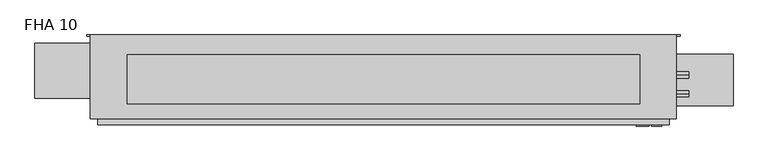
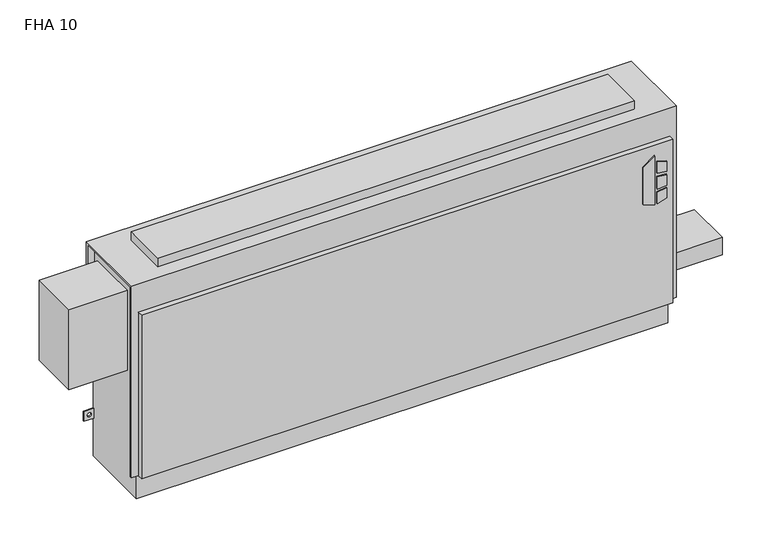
"""IFC4 building model written with IfcOpenShell, lengths in millimetres: proxy geometry, Vertical_Fan_Coil_Unit_-_FHA_-_IEC_-_2-Pipe_TS-FR_RH_2022 : FHA 10."""

from ifc_helpers import new_model, si_unit, point, frame, frame_2d, origin, place, context, project, spatial, polyline, circle_curve, trimmed, segment, composite_curve, outline, extrude, source, transform, mapped, element, save
from ifc_brep_helpers import plane_surface, revolved_surface, advanced_brep


def fha_10_318577b4(model_context):
    return source(origin(), model_context, "Body", "SolidModel", [
        extrude(outline(polyline([(391.6086829, 804.9368862), (381.6606126, 837.1102728), (523.831537, 837.1102728), (500.8095309, 804.9368862), (391.6086829, 804.9368862)])), frame((0.0, 9.525, 0.0), z_axis=(0.0, 1.0, 0.0), x_axis=(0.0, 0.0, 1.0)), (0.0, 0.0, 1.0), 3.175),
        extrude(outline(polyline([(470.6079683, 843.8686058), (467.4055757, 869.95), (496.6344168, 869.95), (504.6988318, 843.8686058), (470.6079683, 843.8686058)])), frame((0.0, 9.525, 0.0), z_axis=(0.0, 1.0, 0.0), x_axis=(0.0, 0.0, 1.0)), (0.0, 0.0, 1.0), 3.175),
        extrude(outline(polyline([(418.7444414, 869.95), (415.0789404, 843.8686058), (381.6606126, 843.8686058), (390.2948498, 869.95), (418.7444414, 869.95)])), frame((0.0, 9.525, 0.0), z_axis=(0.0, 1.0, 0.0), x_axis=(0.0, 0.0, 1.0)), (0.0, 0.0, 1.0), 3.175),
        extrude(outline(polyline([(458.0596028, 869.95), (460.3414292, 843.8686058), (424.4038806, 843.8686058), (427.1451456, 869.95), (458.0596028, 869.95)])), frame((0.0, 9.525, 0.0), z_axis=(0.0, 1.0, 0.0), x_axis=(0.0, 0.0, 1.0)), (0.0, 0.0, 1.0), 3.175),
        extrude(outline(composite_curve([segment(trimmed(circle_curve(frame_2d((952.5, 128.5875)), 9.525), [point((942.975, 128.5875))], [point((962.025, 128.5875))], False, "CARTESIAN"), True, "CONTINUOUS"), segment(trimmed(circle_curve(frame_2d((952.5, 128.5875)), 9.525), [point((962.025, 128.5875))], [point((942.975, 128.5875))], False, "CARTESIAN"), True, "CONTINUOUS")], self_intersect=False)), frame((0.0, 0.0, 101.6), z_axis=(0.0, 0.0, 1.0), x_axis=(1.0, 0.0, 0.0)), (0.0, 0.0, 1.0), 25.4),
        extrude(outline(polyline([(1054.1, 195.2625), (1054.1, 61.9125), (889.0, 61.9125), (889.0, 195.2625), (1054.1, 195.2625)])), frame((0.0, 0.0, 127.0), z_axis=(0.0, 0.0, 1.0), x_axis=(1.0, 0.0, 0.0)), (0.0, 0.0, 1.0), 50.8),
        extrude(outline(polyline([(812.8, 193.675), (812.8, 66.675), (-508.0, 66.675), (-508.0, 193.675), (812.8, 193.675)])), frame((0.0, 0.0, 635.0), z_axis=(0.0, 0.0, 1.0), x_axis=(1.0, 0.0, 0.0)), (0.0, 0.0, 1.0), 25.4),
        extrude(outline(composite_curve([segment(trimmed(circle_curve(frame_2d((93.1926, 488.0102)), 7.9375), [point((93.1926, 480.0727))], [point((93.1926, 495.9477))], False, "CARTESIAN"), True, "CONTINUOUS"), segment(trimmed(circle_curve(frame_2d((93.1926, 488.0102)), 7.9375), [point((93.1926, 495.9477))], [point((93.1926, 480.0727))], False, "CARTESIAN"), True, "CONTINUOUS")], self_intersect=False)), frame((889.0, 0.0, 0.0), z_axis=(1.0, 0.0, 0.0), x_axis=(0.0, 1.0, 0.0)), (0.0, 0.0, 1.0), 50.8),
        extrude(outline(composite_curve([segment(trimmed(circle_curve(frame_2d((141.3002, 461.3402)), 7.9375), [point((141.3002, 453.4027))], [point((141.3002, 469.2777))], False, "CARTESIAN"), True, "CONTINUOUS"), segment(trimmed(circle_curve(frame_2d((141.3002, 461.3402)), 7.9375), [point((141.3002, 469.2777))], [point((141.3002, 453.4027))], False, "CARTESIAN"), True, "CONTINUOUS")], self_intersect=False)), frame((889.0, 0.0, 0.0), z_axis=(1.0, 0.0, 0.0), x_axis=(0.0, 1.0, 0.0)), (0.0, 0.0, 1.0), 50.8),
        extrude(outline(polyline([(-746.125, 223.266), (-584.2, 223.266), (-584.2, 81.534), (-746.125, 81.534), (-746.125, 223.266)])), frame((0.0, 0.0, 349.25), z_axis=(0.0, 0.0, 1.0), x_axis=(1.0, 0.0, 0.0)), (0.0, 0.0, 1.0), 234.95),
        advanced_brep(
        [(908.05, 244.475, 635.0), (-603.25, 244.475, 635.0), (-603.25, 28.575, 635.0), (908.05, 28.575, 635.0), (-584.2, 244.475, 0.0), (889.0, 244.475, 0.0), (889.0, 38.1, 0.0), (-584.2, 38.1, 0.0), (908.05, 244.475, 558.8), (889.0, 244.475, 558.8), (889.0, 244.475, 414.3375), (917.575, 244.475, 414.3375), (917.575, 244.475, 385.7625), (889.0, 244.475, 385.7625), (889.0, 244.475, 287.3375), (917.575, 244.475, 287.3375), (917.575, 244.475, 258.7625), (889.0, 244.475, 258.7625), (889.0, 244.475, 141.2875), (917.575, 244.475, 141.2875), (917.575, 244.475, 112.7125), (889.0, 244.475, 112.7125), (-584.2, 244.475, 112.7125), (-612.775, 244.475, 112.7125), (-612.775, 244.475, 141.2875), (-584.2, 244.475, 141.2875), (-584.2, 244.475, 258.7625), (-612.775, 244.475, 258.7625), (-612.775, 244.475, 287.3375), (-584.2, 244.475, 287.3375), (-584.2, 244.475, 385.7625), (-612.775, 244.475, 385.7625), (-612.775, 244.475, 414.3375), (-584.2, 244.475, 414.3375), (-584.2, 244.475, 558.8), (-603.25, 244.475, 558.8), (907.2626, 244.475, 127.0), (896.1374, 244.475, 127.0), (-591.3374, 244.475, 127.0), (-602.4626, 244.475, 127.0), (907.2626, 244.475, 273.05), (896.1374, 244.475, 273.05), (-591.3374, 244.475, 273.05), (-602.4626, 244.475, 273.05), (907.2626, 244.475, 400.05), (896.1374, 244.475, 400.05), (-591.3374, 244.475, 400.05), (-602.4626, 244.475, 400.05), (-603.25, 238.125, 558.8), (-603.25, 238.125, 628.65), (-603.25, 34.925, 628.65), (-603.25, 34.925, 73.025), (-603.25, 28.575, 73.025), (889.0, 12.7, 552.45), (-584.2, 12.7, 552.45), (-584.2, 12.7, 73.025), (889.0, 12.7, 73.025), (908.05, 28.575, 73.025), (908.05, 34.925, 73.025), (908.05, 34.925, 628.65), (908.05, 238.125, 628.65), (908.05, 238.125, 558.8), (-584.2, 28.575, 73.025), (-584.2, 28.575, 552.45), (889.0, 28.575, 552.45), (889.0, 28.575, 73.025), (-584.2, 34.925, 73.025), (-584.2, 38.1, 73.025), (889.0, 38.1, 73.025), (889.0, 34.925, 73.025), (889.0, 241.3, 112.7125), (889.0, 241.3, 141.2875), (889.0, 241.3, 258.7625), (889.0, 241.3, 287.3375), (889.0, 241.3, 385.7625), (889.0, 241.3, 414.3375), (889.0, 238.125, 558.8), (889.0, 238.125, 628.65), (889.0, 34.925, 628.65), (-584.2, 34.925, 628.65), (-584.2, 238.125, 628.65), (-584.2, 238.125, 558.8), (-584.2, 241.3, 414.3375), (-584.2, 241.3, 385.7625), (-584.2, 241.3, 287.3375), (-584.2, 241.3, 258.7625), (-584.2, 241.3, 141.2875), (-584.2, 241.3, 112.7125), (917.575, 241.3, 112.7125), (917.575, 241.3, 141.2875), (896.1374, 241.3, 127.0), (907.2626, 241.3, 127.0), (917.575, 241.3, 258.7625), (917.575, 241.3, 287.3375), (896.1374, 241.3, 273.05), (907.2626, 241.3, 273.05), (917.575, 241.3, 385.7625), (917.575, 241.3, 414.3375), (896.1374, 241.3, 400.05), (907.2626, 241.3, 400.05), (-612.775, 241.3, 141.2875), (-612.775, 241.3, 112.7125), (-602.4626, 241.3, 127.0), (-591.3374, 241.3, 127.0), (-612.775, 241.3, 287.3375), (-612.775, 241.3, 258.7625), (-602.4626, 241.3, 273.05), (-591.3374, 241.3, 273.05), (-612.775, 241.3, 414.3375), (-612.775, 241.3, 385.7625), (-602.4626, 241.3, 400.05), (-591.3374, 241.3, 400.05)],
        [
            (0, 1),
            (1, 2),
            (2, 3),
            (3, 0),
            (4, 5),
            (5, 6),
            (6, 7),
            (7, 4),
            (0, 8),
            (8, 9),
            (9, 10),
            (10, 11),
            (11, 12),
            (12, 13),
            (13, 14),
            (14, 15),
            (15, 16),
            (16, 17),
            (17, 18),
            (18, 19),
            (19, 20),
            (20, 21),
            (21, 5),
            (4, 22),
            (22, 23),
            (23, 24),
            (24, 25),
            (25, 26),
            (26, 27),
            (27, 28),
            (28, 29),
            (29, 30),
            (30, 31),
            (31, 32),
            (32, 33),
            (33, 34),
            (34, 35),
            (35, 1),
            (36, 37, circle_curve(frame((901.7, 244.475, 127.0), z_axis=(0.0, -1.0, 0.0), x_axis=(-1.0, 0.0, 0.0)), 5.5626)),
            (37, 36, circle_curve(frame((901.7, 244.475, 127.0), z_axis=(0.0, -1.0, 0.0), x_axis=(-1.0, 0.0, 0.0)), 5.5626)),
            (38, 39, circle_curve(frame((-596.9, 244.475, 127.0), z_axis=(0.0, -1.0, 0.0), x_axis=(-1.0, 0.0, 0.0)), 5.5626)),
            (39, 38, circle_curve(frame((-596.9, 244.475, 127.0), z_axis=(0.0, -1.0, 0.0), x_axis=(-1.0, 0.0, 0.0)), 5.5626)),
            (40, 41, circle_curve(frame((901.7, 244.475, 273.05), z_axis=(0.0, -1.0, 0.0), x_axis=(-1.0, 0.0, 0.0)), 5.5626)),
            (41, 40, circle_curve(frame((901.7, 244.475, 273.05), z_axis=(0.0, -1.0, 0.0), x_axis=(-1.0, 0.0, 0.0)), 5.5626)),
            (42, 43, circle_curve(frame((-596.9, 244.475, 273.05), z_axis=(0.0, -1.0, 0.0), x_axis=(-1.0, 0.0, 0.0)), 5.5626)),
            (43, 42, circle_curve(frame((-596.9, 244.475, 273.05), z_axis=(0.0, -1.0, 0.0), x_axis=(-1.0, 0.0, 0.0)), 5.5626)),
            (44, 45, circle_curve(frame((901.7, 244.475, 400.05), z_axis=(0.0, -1.0, 0.0), x_axis=(-1.0, 0.0, 0.0)), 5.5626)),
            (45, 44, circle_curve(frame((901.7, 244.475, 400.05), z_axis=(0.0, -1.0, 0.0), x_axis=(-1.0, 0.0, 0.0)), 5.5626)),
            (46, 47, circle_curve(frame((-596.9, 244.475, 400.05), z_axis=(0.0, -1.0, 0.0), x_axis=(-1.0, 0.0, 0.0)), 5.5626)),
            (47, 46, circle_curve(frame((-596.9, 244.475, 400.05), z_axis=(0.0, -1.0, 0.0), x_axis=(-1.0, 0.0, 0.0)), 5.5626)),
            (35, 48),
            (48, 49),
            (49, 50),
            (50, 51),
            (51, 52),
            (52, 2),
            (53, 54),
            (54, 55),
            (55, 56),
            (56, 53),
            (3, 57),
            (57, 58),
            (58, 59),
            (59, 60),
            (60, 61),
            (61, 8),
            (52, 62),
            (62, 63),
            (63, 64),
            (64, 65),
            (65, 57),
            (53, 64),
            (63, 54),
            (55, 62),
            (51, 66),
            (66, 67),
            (67, 68),
            (68, 69),
            (69, 58),
            (65, 56),
            (6, 68),
            (67, 7),
            (21, 70),
            (70, 71),
            (71, 18),
            (17, 72),
            (72, 73),
            (73, 14),
            (13, 74),
            (74, 75),
            (75, 10),
            (9, 76),
            (76, 77),
            (77, 78),
            (78, 69),
            (66, 79),
            (79, 80),
            (80, 81),
            (81, 34),
            (33, 82),
            (82, 83),
            (83, 30),
            (29, 84),
            (84, 85),
            (85, 26),
            (25, 86),
            (86, 87),
            (87, 22),
            (76, 61),
            (60, 77),
            (78, 59),
            (50, 79),
            (81, 48),
            (80, 49),
            (70, 88),
            (88, 89),
            (89, 71),
            (90, 91, circle_curve(frame((901.7, 241.3, 127.0), z_axis=(0.0, 1.0, 0.0), x_axis=(-1.0, 0.0, 0.0)), 5.5626)),
            (91, 90, circle_curve(frame((901.7, 241.3, 127.0), z_axis=(0.0, 1.0, 0.0), x_axis=(-1.0, 0.0, 0.0)), 5.5626)),
            (92, 93),
            (93, 73),
            (72, 92),
            (94, 95, circle_curve(frame((901.7, 241.3, 273.05), z_axis=(0.0, 1.0, 0.0), x_axis=(-1.0, 0.0, 0.0)), 5.5626)),
            (95, 94, circle_curve(frame((901.7, 241.3, 273.05), z_axis=(0.0, 1.0, 0.0), x_axis=(-1.0, 0.0, 0.0)), 5.5626)),
            (96, 97),
            (97, 75),
            (74, 96),
            (98, 99, circle_curve(frame((901.7, 241.3, 400.05), z_axis=(0.0, 1.0, 0.0), x_axis=(-1.0, 0.0, 0.0)), 5.5626)),
            (99, 98, circle_curve(frame((901.7, 241.3, 400.05), z_axis=(0.0, 1.0, 0.0), x_axis=(-1.0, 0.0, 0.0)), 5.5626)),
            (100, 101),
            (101, 87),
            (86, 100),
            (102, 103, circle_curve(frame((-596.9, 241.3, 127.0), z_axis=(0.0, 1.0, 0.0), x_axis=(-1.0, 0.0, 0.0)), 5.5626)),
            (103, 102, circle_curve(frame((-596.9, 241.3, 127.0), z_axis=(0.0, 1.0, 0.0), x_axis=(-1.0, 0.0, 0.0)), 5.5626)),
            (84, 104),
            (104, 105),
            (105, 85),
            (106, 107, circle_curve(frame((-596.9, 241.3, 273.05), z_axis=(0.0, 1.0, 0.0), x_axis=(-1.0, 0.0, 0.0)), 5.5626)),
            (107, 106, circle_curve(frame((-596.9, 241.3, 273.05), z_axis=(0.0, 1.0, 0.0), x_axis=(-1.0, 0.0, 0.0)), 5.5626)),
            (108, 109),
            (109, 83),
            (82, 108),
            (110, 111, circle_curve(frame((-596.9, 241.3, 400.05), z_axis=(0.0, 1.0, 0.0), x_axis=(-1.0, 0.0, 0.0)), 5.5626)),
            (111, 110, circle_curve(frame((-596.9, 241.3, 400.05), z_axis=(0.0, 1.0, 0.0), x_axis=(-1.0, 0.0, 0.0)), 5.5626)),
            (89, 19),
            (88, 20),
            (16, 92),
            (93, 15),
            (12, 96),
            (97, 11),
            (24, 100),
            (101, 23),
            (105, 27),
            (104, 28),
            (32, 108),
            (109, 31),
            (90, 37),
            (36, 91),
            (102, 39),
            (38, 103),
            (94, 41),
            (40, 95),
            (106, 43),
            (42, 107),
            (98, 45),
            (44, 99),
            (110, 47),
            (46, 111),
        ],
        [
            plane_surface(frame((-603.25, 244.475, 635.0), z_axis=(0.0, 0.0, 1.0), x_axis=(-1.0, 0.0, 0.0))),
            plane_surface(frame((-603.25, 244.475, 0.0), z_axis=(0.0, 0.0, -1.0), x_axis=(1.0, 0.0, 0.0))),
            plane_surface(frame((908.05, 244.475, 635.0), z_axis=(0.0, 1.0, 0.0), x_axis=(0.0, 0.0, -1.0))),
            plane_surface(frame((-603.25, 244.475, 635.0), z_axis=(-1.0, 0.0, 0.0), x_axis=(0.0, 0.0, -1.0))),
            plane_surface(frame((-603.25, 12.7, 635.0), z_axis=(0.0, -1.0, 0.0), x_axis=(0.0, 0.0, -1.0))),
            plane_surface(frame((908.05, 12.7, 635.0), z_axis=(1.0, 0.0, 0.0), x_axis=(0.0, 0.0, -1.0))),
            plane_surface(frame((-1060.45, 28.575, 635.0), z_axis=(0.0, -1.0, 0.0), x_axis=(1.0, 0.0, 0.0))),
            plane_surface(frame((-1060.45, 28.575, 552.45), z_axis=(0.0, 0.0, 1.0), x_axis=(1.0, 0.0, 0.0))),
            plane_surface(frame((-603.25, 12.7, 73.025), z_axis=(0.0, 0.0, -1.0), x_axis=(1.0, 0.0, 0.0))),
            plane_surface(frame((-603.25, 38.1, 73.025), z_axis=(0.0, -1.0, 0.0), x_axis=(1.0, 0.0, 0.0))),
            plane_surface(frame((889.0, 28.575, 73.025), z_axis=(1.0, 0.0, 0.0), x_axis=(0.0, -1.0, 0.0))),
            plane_surface(frame((-584.2, 28.575, 552.45), z_axis=(-1.0, 0.0, 0.0), x_axis=(0.0, -1.0, 0.0))),
            plane_surface(frame((889.0, 244.475, 0.0), z_axis=(1.0, 0.0, 0.0), x_axis=(0.0, -1.0, 0.0))),
            plane_surface(frame((-584.2, 244.475, 73.025), z_axis=(-1.0, 0.0, 0.0), x_axis=(0.0, -1.0, 0.0))),
            plane_surface(frame((889.0, 238.125, 628.65), z_axis=(0.0, -1.0, 0.0), x_axis=(1.0, 0.0, 0.0))),
            plane_surface(frame((889.0, 238.125, 558.8), z_axis=(0.0, 0.0, -1.0), x_axis=(1.0, 0.0, 0.0))),
            plane_surface(frame((889.0, 34.925, 73.025), z_axis=(0.0, 1.0, 0.0), x_axis=(1.0, 0.0, 0.0))),
            plane_surface(frame((889.0, 34.925, 628.65), z_axis=(0.0, 0.0, -1.0), x_axis=(1.0, 0.0, 0.0))),
            plane_surface(frame((-584.2, 34.925, 628.65), z_axis=(0.0, 1.0, 0.0), x_axis=(-1.0, 0.0, 0.0))),
            plane_surface(frame((-584.2, 244.475, 558.8), z_axis=(0.0, 0.0, -1.0), x_axis=(-1.0, 0.0, 0.0))),
            plane_surface(frame((-584.2, 238.125, 558.8), z_axis=(0.0, -1.0, 0.0), x_axis=(-1.0, 0.0, 0.0))),
            plane_surface(frame((-584.2, 238.125, 628.65), z_axis=(0.0, 0.0, -1.0), x_axis=(-1.0, 0.0, 0.0))),
            plane_surface(frame((917.575, 241.3, 141.2875), z_axis=(0.0, -1.0, 0.0), x_axis=(-1.0, 0.0, 0.0))),
            plane_surface(frame((889.0, 244.475, 141.2875), z_axis=(0.0, 0.0, 1.0), x_axis=(0.0, -1.0, 0.0))),
            plane_surface(frame((917.575, 244.475, 141.2875), z_axis=(1.0, 0.0, 0.0), x_axis=(0.0, -1.0, 0.0))),
            plane_surface(frame((917.575, 244.475, 112.7125), z_axis=(0.0, 0.0, -1.0), x_axis=(0.0, -1.0, 0.0))),
            plane_surface(frame((917.575, 244.475, 258.7625), z_axis=(0.0, 0.0, -1.0), x_axis=(0.0, -1.0, 0.0))),
            plane_surface(frame((889.0, 244.475, 287.3375), z_axis=(0.0, 0.0, 1.0), x_axis=(0.0, -1.0, 0.0))),
            plane_surface(frame((917.575, 244.475, 287.3375), z_axis=(1.0, 0.0, 0.0), x_axis=(0.0, -1.0, 0.0))),
            plane_surface(frame((917.575, 244.475, 385.7625), z_axis=(0.0, 0.0, -1.0), x_axis=(0.0, -1.0, 0.0))),
            plane_surface(frame((889.0, 244.475, 414.3375), z_axis=(0.0, 0.0, 1.0), x_axis=(0.0, -1.0, 0.0))),
            plane_surface(frame((917.575, 244.475, 414.3375), z_axis=(1.0, 0.0, 0.0), x_axis=(0.0, -1.0, 0.0))),
            plane_surface(frame((-612.775, 244.475, 141.2875), z_axis=(0.0, 0.0, 1.0), x_axis=(0.0, -1.0, 0.0))),
            plane_surface(frame((-584.2, 244.475, 112.7125), z_axis=(0.0, 0.0, -1.0), x_axis=(0.0, -1.0, 0.0))),
            plane_surface(frame((-612.775, 244.475, 112.7125), z_axis=(-1.0, 0.0, 0.0), x_axis=(0.0, -1.0, 0.0))),
            plane_surface(frame((-584.2, 244.475, 258.7625), z_axis=(0.0, 0.0, -1.0), x_axis=(0.0, -1.0, 0.0))),
            plane_surface(frame((-612.775, 244.475, 258.7625), z_axis=(-1.0, 0.0, 0.0), x_axis=(0.0, -1.0, 0.0))),
            plane_surface(frame((-612.775, 244.475, 287.3375), z_axis=(0.0, 0.0, 1.0), x_axis=(0.0, -1.0, 0.0))),
            plane_surface(frame((-612.775, 244.475, 414.3375), z_axis=(0.0, 0.0, 1.0), x_axis=(0.0, -1.0, 0.0))),
            plane_surface(frame((-584.2, 244.475, 385.7625), z_axis=(0.0, 0.0, -1.0), x_axis=(0.0, -1.0, 0.0))),
            plane_surface(frame((-612.775, 244.475, 385.7625), z_axis=(-1.0, 0.0, 0.0), x_axis=(0.0, -1.0, 0.0))),
            revolved_surface(polyline([(896.1374000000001, 241.3, 127.0), (896.1374000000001, 244.475, 127.0)]), (901.7, 244.475, 127.0), (0.0, -1.0, 0.0)),
            revolved_surface(polyline([(-602.4626, 241.3, 127.0), (-602.4626, 244.475, 127.0)]), (-596.9, 244.475, 127.0), (0.0, -1.0, 0.0)),
            revolved_surface(polyline([(896.1374000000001, 241.3, 273.05), (896.1374000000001, 244.475, 273.05)]), (901.7, 244.475, 273.05), (0.0, -1.0, 0.0)),
            revolved_surface(polyline([(-602.4626, 241.3, 273.05), (-602.4626, 244.475, 273.05)]), (-596.9, 244.475, 273.05), (0.0, -1.0, 0.0)),
            revolved_surface(polyline([(896.1374000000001, 241.3, 400.05), (896.1374000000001, 244.475, 400.05)]), (901.7, 244.475, 400.05), (0.0, -1.0, 0.0)),
            revolved_surface(polyline([(-602.4626, 241.3, 400.05), (-602.4626, 244.475, 400.05)]), (-596.9, 244.475, 400.05), (0.0, -1.0, 0.0)),
        ],
        [
            (0, [[1, 2, 3, 4]]),
            (1, [[5, 6, 7, 8]]),
            (2, [[-1, 9, 10, 11, 12, 13, 14, 15, 16, 17, 18, 19, 20, 21, 22, 23, -5, 24, 25, 26, 27, 28, 29, 30, 31, 32, 33, 34, 35, 36, 37, 38], [39, 40], [41, 42], [43, 44], [45, 46], [47, 48], [49, 50]]),
            (3, [[-2, -38, 51, 52, 53, 54, 55, 56]]),
            (4, [[57, 58, 59, 60]]),
            (5, [[-4, 61, 62, 63, 64, 65, 66, -9]]),
            (6, [[-3, -56, 67, 68, 69, 70, 71, -61]]),
            (7, [[-57, 72, -69, 73]]),
            (8, [[-59, 74, -67, -55, 75, 76, 77, 78, 79, -62, -71, 80]]),
            (9, [[-7, 81, -77, 82]]),
            (10, [[-70, -72, -60, -80]]),
            (11, [[-68, -74, -58, -73]]),
            (12, [[-6, -23, 83, 84, 85, -19, 86, 87, 88, -15, 89, 90, 91, -11, 92, 93, 94, 95, -78, -81]]),
            (13, [[-8, -82, -76, 96, 97, 98, 99, -36, 100, 101, 102, -32, 103, 104, 105, -28, 106, 107, 108, -24]]),
            (14, [[-93, 109, -65, 110]]),
            (15, [[-92, -10, -66, -109]]),
            (16, [[-95, 111, -63, -79]]),
            (17, [[-94, -110, -64, -111]]),
            (18, [[-96, -75, -54, 112]]),
            (19, [[-99, 113, -51, -37]]),
            (20, [[-98, 114, -52, -113]]),
            (21, [[-97, -112, -53, -114]]),
            (22, [[115, 116, 117, -84], [118, 119]]),
            (22, [[120, 121, -87, 122], [123, 124]]),
            (22, [[125, 126, -90, 127], [128, 129]]),
            (22, [[130, 131, -107, 132], [133, 134]]),
            (22, [[135, 136, 137, -104], [138, 139]]),
            (22, [[140, 141, -101, 142], [143, 144]]),
            (23, [[-117, 145, -20, -85]]),
            (24, [[-116, 146, -21, -145]]),
            (25, [[-115, -83, -22, -146]]),
            (26, [[-122, -86, -18, 147]]),
            (27, [[-121, 148, -16, -88]]),
            (28, [[-120, -147, -17, -148]]),
            (29, [[-127, -89, -14, 149]]),
            (30, [[-126, 150, -12, -91]]),
            (31, [[-125, -149, -13, -150]]),
            (32, [[-132, -106, -27, 151]]),
            (33, [[-131, 152, -25, -108]]),
            (34, [[-130, -151, -26, -152]]),
            (35, [[-137, 153, -29, -105]]),
            (36, [[-136, 154, -30, -153]]),
            (37, [[-135, -103, -31, -154]]),
            (38, [[-142, -100, -35, 155]]),
            (39, [[-141, 156, -33, -102]]),
            (40, [[-140, -155, -34, -156]]),
            (41, [[157, -39, 158, -118]]),
            (41, [[-157, -119, -158, -40]]),
            (42, [[159, -41, 160, -133]]),
            (42, [[-159, -134, -160, -42]]),
            (43, [[161, -43, 162, -123]]),
            (43, [[-161, -124, -162, -44]]),
            (44, [[163, -45, 164, -138]]),
            (44, [[-163, -139, -164, -46]]),
            (45, [[165, -47, 166, -128]]),
            (45, [[-165, -129, -166, -48]]),
            (46, [[167, -49, 168, -143]]),
            (46, [[-167, -144, -168, -50]]),
        ],
    ),
    ])


if __name__ == "__main__":
    model = new_model("IFC4")
    model_context = context("Model", 3, world=origin())
    ifc_project = project(units=[si_unit("LENGTHUNIT", "METRE", prefix="MILLI")], contexts=[model_context])
    site = spatial("IfcSite", under=ifc_project)
    building = spatial("IfcBuilding", under=site)
    placement = place(None, origin())
    fha_10_shape = fha_10_318577b4(model_context)
    element("IfcBuildingElementProxy", 1, Name="Vertical_Fan_Coil_Unit_-_FHA_-_IEC_-_2-Pipe_TS-FR_RH_2022 : FHA 10", ObjectType="Vertical_Fan_Coil_Unit_-_FHA_-_IEC_-_2-Pipe_TS-FR_RH_2022 : FHA 10", at=placement, inside=building, context=model_context, shape_type="MappedRepresentation", body=[
        mapped(fha_10_shape, transform((0.0, 0.0, 0.0), x_axis=(1.0, 0.0, 0.0), y_axis=(0.0, 1.0, 0.0), z_axis=(0.0, 0.0, 1.0))),
    ])
    save(model, "model.ifc")
